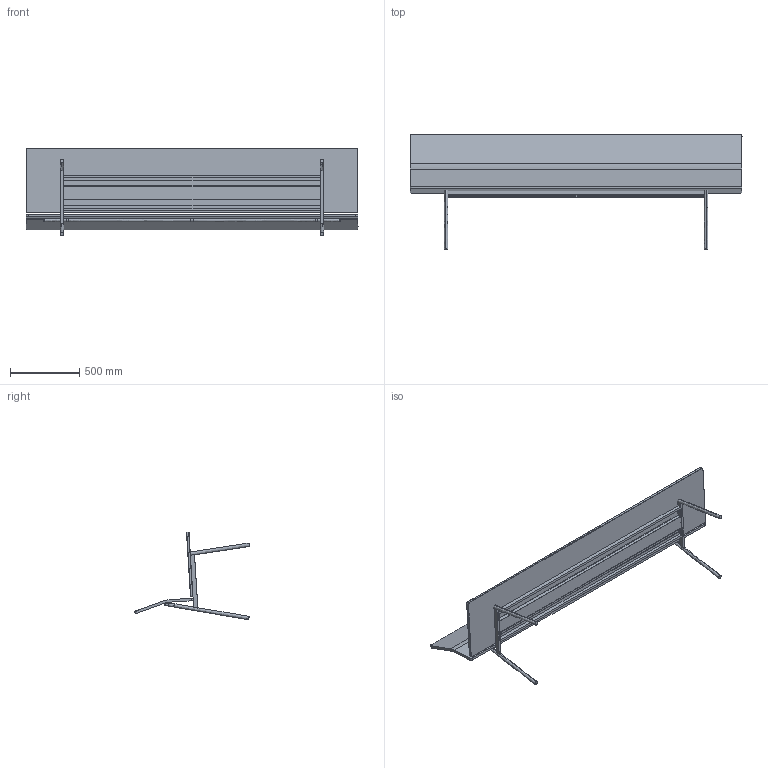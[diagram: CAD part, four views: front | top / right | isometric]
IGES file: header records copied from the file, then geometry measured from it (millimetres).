
Start section: SolidWorks IGES file using analytic representation for surfaces
Global section: file name: Z:\01-VICCARBE\PRODUCTOS\59-TORII\04-MODELADOS (PLANOS)\WEB\Viccarbe_Torii bench_3D\Viccarbe_Torii bench_2400.IGS; native system: SolidWorks 2013; preprocessor: SolidWorks 2013; author: bdisenyo; date: 180710.175228; units: millimetre
Bounding box: 2400 x 831.79 x 632.94 mm (x, y, z)
Surface area: 6521703.3 mm2 (no closed solid volume)
Topology: 0 solids, 0 shells, 150 faces, 2412 edges, 2412 vertices
Faces by surface type: revolution 76, bspline 74
